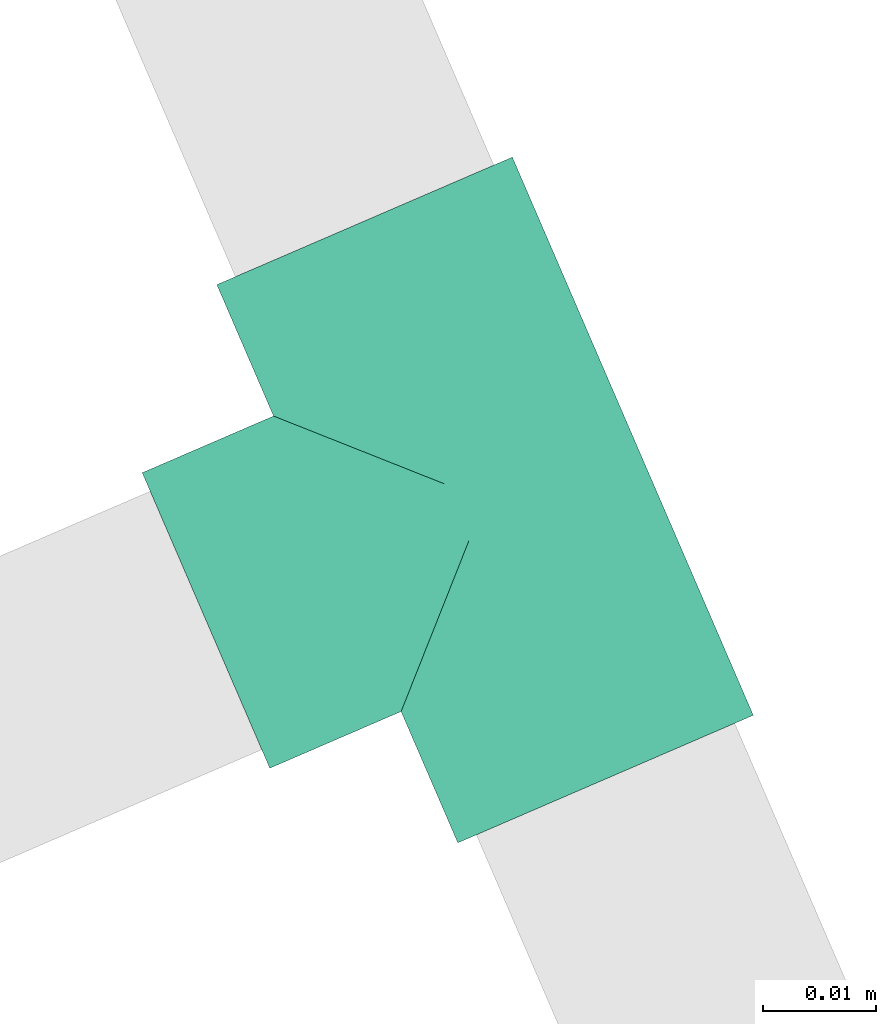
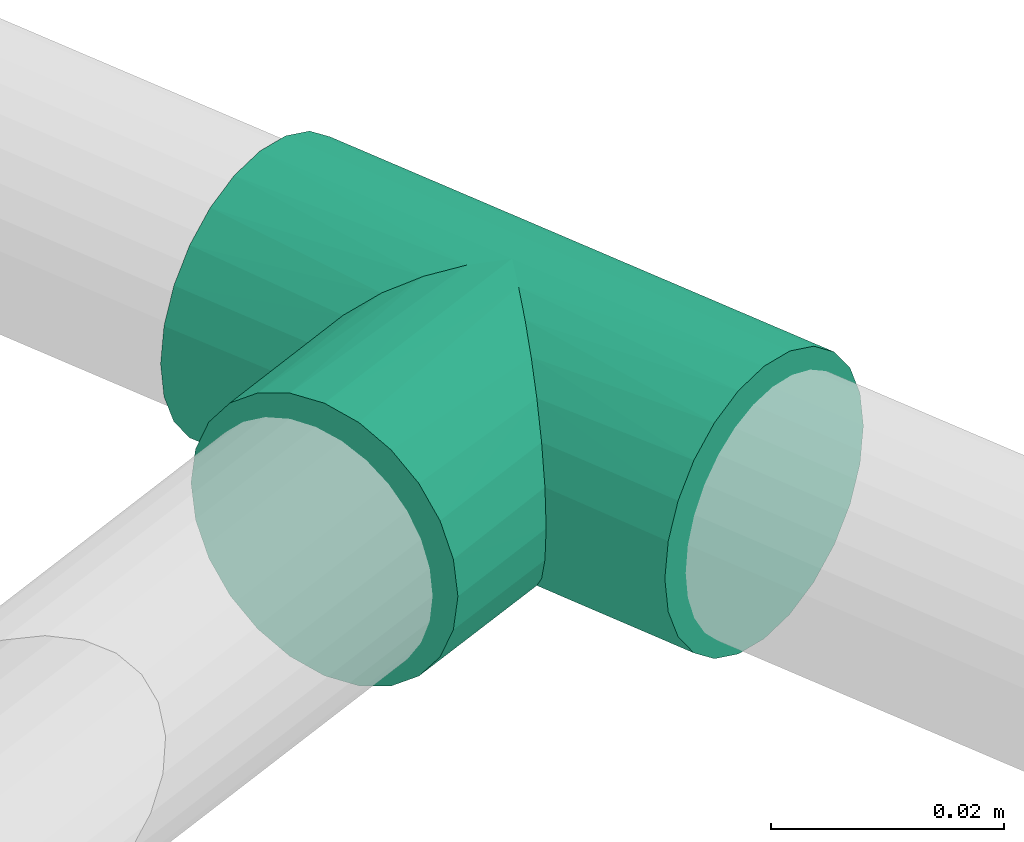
# One storey, part 26 of 26: 1 pipe fitting.
"""IFC4 building model written with IfcOpenShell, lengths in metres."""

from ifc_helpers import new_model, entity, si_unit, converted_unit, derived_unit, direction, frame, origin, place, context, subcontext, project, spatial, polygons, source, transform, mapped, material, type_object, type_shapes, element, save


model = new_model("IFC4")

# Units and contexts
model_context = context("Model", 3, precision=1e-05, world=origin(), true_north=direction((6.12323399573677e-17, 1.0)))
body_context = subcontext(model_context, "Body", "Model", "MODEL_VIEW")
ifc_project = project(units=[si_unit("LENGTHUNIT", "METRE"), si_unit("AREAUNIT", "SQUARE_METRE"), si_unit("VOLUMEUNIT", "CUBIC_METRE"), si_unit("PRESSUREUNIT", "PASCAL"), derived_unit("VOLUMETRICFLOWRATEUNIT", [(si_unit("LENGTHUNIT", "METRE", prefix="DECI"), 3), (si_unit("TIMEUNIT", "SECOND"), -1)]), converted_unit("PLANEANGLEUNIT", "DEGREE", entity("IfcPlaneAngleMeasure", 0.0174532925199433), si_unit("PLANEANGLEUNIT", "RADIAN"), dimensions=[0, 0, 0, 0, 0, 0, 0])], contexts=[model_context])

# Site, building, storey
site_placement = place(None, origin())
site = spatial("IfcSite", under=ifc_project, at=site_placement, Name="Default", CompositionType="ELEMENT")
building_placement = place(site_placement, frame((24.575451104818, -55.896759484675, 317.15), z_axis=(0.0, 0.0, 1.0), x_axis=(-0.396377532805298, 0.918087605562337, 0.0)))
building = spatial("IfcBuilding", under=site, at=building_placement, CompositionType="ELEMENT")
storey_placement = place(building_placement, origin())
storey = spatial("IfcBuildingStorey", under=building, at=storey_placement, Name="Nivel 1", CompositionType="ELEMENT", Elevation=0.0)

# Pipe fitting
ifc_material = material(Name="<Unnamed>")
pipe_fitting_type = type_object("IfcPipeFittingType", Name="M_Te - Genérica:Norma", PredefinedType="NOTDEFINED", material=ifc_material)
shared_shape = source(origin(), body_context, "Body", "Tessellation", [
    polygons([(-0.0269874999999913, -0.0142875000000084, -1.91398743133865e-15), (-0.0269874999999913, -0.0138006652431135, 0.00369787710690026), (-0.0269874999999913, -0.0123733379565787, 0.00714374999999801), (-0.0269874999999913, -0.0101027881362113, 0.0101027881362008), (-0.0269874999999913, -0.00714375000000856, 0.0123733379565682), (-0.0269874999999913, -0.00369787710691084, 0.0138006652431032), (-0.0269874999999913, -8.58445701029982e-15, 0.0142874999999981), (-0.0269874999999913, 0.00369787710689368, 0.0138006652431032), (-0.0269874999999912, 0.00714374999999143, 0.0123733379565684), (-0.0269874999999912, 0.0101027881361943, 0.0101027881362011), (-0.0269874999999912, 0.0123733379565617, 0.00714374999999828), (-0.0269874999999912, 0.0138006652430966, 0.00369787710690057), (-0.0269874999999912, 0.0142874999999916, -1.77549487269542e-15), (-0.0269874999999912, 0.0138006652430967, -0.00369787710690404), (-0.0269874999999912, 0.0123733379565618, -0.00714375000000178), (-0.0269874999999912, 0.0101027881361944, -0.0101027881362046), (-0.0269874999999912, 0.00714374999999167, -0.012373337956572), (-0.0269874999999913, 0.00369787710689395, -0.0138006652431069), (-0.0269874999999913, -8.32366117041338e-15, -0.0142875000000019), (-0.0269874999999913, -0.00369787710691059, -0.013800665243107), (-0.0269874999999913, -0.00714375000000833, -0.0123733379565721), (-0.0269874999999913, -0.0101027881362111, -0.0101027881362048), (-0.0269874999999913, -0.0123733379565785, -0.00714375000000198), (-0.0269874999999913, -0.0138006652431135, -0.00369787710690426), (0.0269875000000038, -0.0142875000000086, -1.99997087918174e-15), (0.0269875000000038, -0.0138006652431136, -0.00369787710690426), (0.0269875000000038, -0.0123733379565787, -0.00714375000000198), (0.0269875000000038, -0.0101027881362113, -0.0101027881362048), (0.0269875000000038, -0.0071437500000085, -0.0123733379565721), (0.0269875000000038, -0.00369787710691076, -0.013800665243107), (0.0269875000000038, -8.49708910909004e-15, -0.0142875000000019), (0.0269875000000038, 0.00369787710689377, -0.0138006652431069), (0.0269875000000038, 0.00714374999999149, -0.012373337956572), (0.0269875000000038, 0.0101027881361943, -0.0101027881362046), (0.0269875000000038, 0.0123733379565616, -0.00714375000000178), (0.0269875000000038, 0.0138006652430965, -0.00369787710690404), (0.0269875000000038, 0.0142874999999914, -1.69935577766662e-15), (0.0269875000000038, 0.0138006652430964, 0.00369787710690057), (0.0269875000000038, 0.0123733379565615, 0.00714374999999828), (0.0269875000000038, 0.0101027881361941, 0.0101027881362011), (0.0269875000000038, 0.00714374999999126, 0.0123733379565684), (0.0269875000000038, 0.00369787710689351, 0.0138006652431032), (0.0269875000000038, -8.75788494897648e-15, 0.0142874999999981), (0.0269875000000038, -0.00369787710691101, 0.0138006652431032), (0.0269875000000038, -0.00714375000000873, 0.0123733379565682), (0.0269875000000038, -0.0101027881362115, 0.0101027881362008), (0.0269875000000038, -0.0123733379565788, 0.00714374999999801), (0.0269875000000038, -0.0138006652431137, 0.00369787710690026), (-0.0142874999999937, -0.0142875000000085, -1.90764250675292e-15), (-0.0137692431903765, -0.0137692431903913, 0.00381321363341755), (-0.0123659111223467, -0.0123659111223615, 0.00715659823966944), (-0.0103676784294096, -0.0103676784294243, 0.00983076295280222), (-0.00800787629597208, -0.00800787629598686, 0.0118324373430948), (-0.00543512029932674, -0.00543512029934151, 0.0132133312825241), (-0.0027435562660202, -0.00274355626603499, 0.0140216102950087), (6.2730154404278e-15, -8.64579128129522e-15, 0.0142874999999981), (0.00274355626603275, -0.002743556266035, 0.0140216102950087), (0.00543512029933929, -0.00543512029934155, 0.0132133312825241), (0.00800787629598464, -0.0080078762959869, 0.0118324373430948), (0.0103676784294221, -0.0103676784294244, 0.00983076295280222), (0.0123659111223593, -0.0123659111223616, 0.00715659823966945), (0.0137692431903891, -0.0137692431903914, 0.00381321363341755), (0.0142875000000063, -0.0142875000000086, -1.90764250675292e-15), (0.0137692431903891, -0.0137692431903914, -0.00381321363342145), (0.0123659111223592, -0.0123659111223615, -0.00715659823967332), (0.0103676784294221, -0.0103676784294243, -0.00983076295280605), (0.00800787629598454, -0.00800787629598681, -0.0118324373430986), (0.0054351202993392, -0.00543512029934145, -0.0132133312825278), (0.00274355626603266, -0.00274355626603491, -0.0140216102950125), (6.2730154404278e-15, -8.44844468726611e-15, -0.0142875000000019), (-0.00274355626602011, -0.00274355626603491, -0.0140216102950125), (-0.00543512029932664, -0.00543512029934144, -0.0132133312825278), (-0.00800787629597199, -0.00800787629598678, -0.0118324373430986), (-0.0103676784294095, -0.0103676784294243, -0.00983076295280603), (-0.0123659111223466, -0.0123659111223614, -0.0071565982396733), (-0.0137692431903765, -0.0137692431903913, -0.00381321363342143), (-0.0142874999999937, -0.0269875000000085, -1.90764250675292e-15), (-0.0138006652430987, -0.0269875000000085, -0.00369787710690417), (-0.0123733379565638, -0.0269875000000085, -0.0071437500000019), (-0.0101027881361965, -0.0269875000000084, -0.0101027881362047), (-0.00714374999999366, -0.0269875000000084, -0.0123733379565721), (-0.00369787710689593, -0.0269875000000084, -0.0138006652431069), (6.33572027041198e-15, -0.0269875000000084, -0.0142875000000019), (0.0036978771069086, -0.0269875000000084, -0.0138006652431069), (0.00714375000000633, -0.0269875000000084, -0.012373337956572), (0.0101027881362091, -0.0269875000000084, -0.0101027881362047), (0.0123733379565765, -0.0269875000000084, -0.00714375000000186), (0.0138006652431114, -0.0269875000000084, -0.00369787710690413), (0.0142875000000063, -0.0269875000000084, -1.69935577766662e-15), (0.0138006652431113, -0.0269875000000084, 0.00369787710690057), (0.0123733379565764, -0.0269875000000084, 0.00714374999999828), (0.010102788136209, -0.0269875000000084, 0.0101027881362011), (0.00714375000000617, -0.0269875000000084, 0.0123733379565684), (0.00369787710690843, -0.0269875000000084, 0.0138006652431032), (6.16090787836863e-15, -0.0269875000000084, 0.0142874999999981), (-0.0036978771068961, -0.0269875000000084, 0.0138006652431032), (-0.00714374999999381, -0.0269875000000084, 0.0123733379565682), (-0.0101027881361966, -0.0269875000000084, 0.0101027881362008), (-0.0123733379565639, -0.0269875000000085, 0.00714374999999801), (-0.0138006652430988, -0.0269875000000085, 0.00369787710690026)], [[[19, 20, 21, 22, 23, 24, 1, 2, 3, 4, 5, 6, 7, 8, 9, 10, 11, 12, 13, 14, 15, 16, 17, 18]], [[32, 33, 34, 35, 36, 37, 38, 39, 40, 41, 42, 43, 44, 45, 46, 47, 48, 25, 26, 27, 28, 29, 30, 31]], [[48, 47, 62]], [[25, 48, 63]], [[49, 2, 1]], [[63, 48, 62]], [[47, 61, 62]], [[46, 45, 59]], [[61, 47, 60]], [[59, 60, 46]], [[60, 47, 46]], [[49, 50, 2]], [[2, 50, 3]], [[50, 51, 3]], [[52, 53, 4]], [[4, 3, 52]], [[4, 53, 5]], [[52, 3, 51]], [[5, 53, 54]], [[59, 45, 58]], [[57, 43, 56]], [[55, 56, 7]], [[58, 44, 57]], [[44, 58, 45]], [[57, 44, 43]], [[56, 43, 42, 8, 7]], [[39, 38, 12, 11]], [[10, 9, 41, 40]], [[11, 10, 40, 39]], [[42, 41, 9, 8]], [[13, 12, 38, 37]], [[55, 6, 54]], [[6, 55, 7]], [[54, 6, 5]], [[34, 16, 15, 35]], [[36, 14, 13, 37]], [[36, 35, 15, 14]], [[17, 16, 34, 33]], [[31, 30, 69]], [[31, 70, 19, 18, 32]], [[70, 31, 69]], [[19, 70, 71]], [[33, 32, 18, 17]], [[71, 72, 20]], [[19, 71, 20]], [[72, 21, 20]], [[69, 30, 68]], [[29, 28, 67]], [[66, 67, 28]], [[27, 65, 66]], [[66, 28, 27]], [[29, 67, 68]], [[26, 25, 63]], [[24, 49, 1]], [[26, 64, 27]], [[64, 26, 63]], [[27, 64, 65]], [[73, 21, 72]], [[73, 22, 21]], [[22, 73, 74]], [[22, 74, 23]], [[76, 49, 24]], [[75, 76, 23]], [[76, 24, 23]], [[75, 23, 74]], [[29, 68, 30]], [[80, 81, 82, 83, 84, 85, 86, 87, 88, 89, 90, 91, 92, 93, 94, 95, 96, 97, 98, 99, 100, 77, 78, 79]], [[77, 100, 49]], [[50, 49, 100]], [[52, 99, 98]], [[98, 97, 53]], [[50, 100, 99]], [[54, 97, 96]], [[51, 50, 99]], [[52, 51, 99]], [[54, 53, 97]], [[95, 56, 55]], [[54, 96, 55]], [[52, 98, 53]], [[55, 96, 95]], [[57, 95, 94]], [[93, 58, 94]], [[91, 90, 62]], [[60, 92, 91]], [[59, 93, 92]], [[63, 90, 89]], [[58, 57, 94]], [[59, 58, 93]], [[63, 62, 90]], [[61, 60, 91]], [[62, 61, 91]], [[59, 92, 60]], [[95, 57, 56]], [[89, 88, 63]], [[64, 63, 88]], [[66, 87, 86]], [[86, 85, 67]], [[87, 64, 88]], [[68, 85, 84]], [[65, 64, 87]], [[66, 65, 87]], [[68, 67, 85]], [[83, 70, 69]], [[68, 84, 69]], [[66, 86, 67]], [[69, 84, 83]], [[71, 83, 82]], [[81, 72, 82]], [[79, 78, 76]], [[74, 80, 79]], [[73, 81, 80]], [[49, 78, 77]], [[72, 71, 82]], [[73, 72, 81]], [[49, 76, 78]], [[75, 74, 79]], [[76, 75, 79]], [[73, 80, 74]], [[83, 71, 70]]], closed=True),
])
type_shapes(pipe_fitting_type, [shared_shape])
pipe_fitting_placement = place(storey_placement, frame((-33.3433688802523, 50.473264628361, -0.44), z_axis=(0.0, 0.0, 1.0), x_axis=(-1.0, 0.0, 0.0)))
element("IfcPipeFitting", 1, at=pipe_fitting_placement, inside=storey, type_object=pipe_fitting_type, material=ifc_material, Name="M_Te - Genérica:Norma", ObjectType="M_Te - Genérica:Norma", PredefinedType="NOTDEFINED", context=body_context, shape_type="MappedRepresentation", body=[
    mapped(shared_shape, transform((0.0, 0.0, 0.0), scale=1.0)),
])

save(model, "model.ifc")
